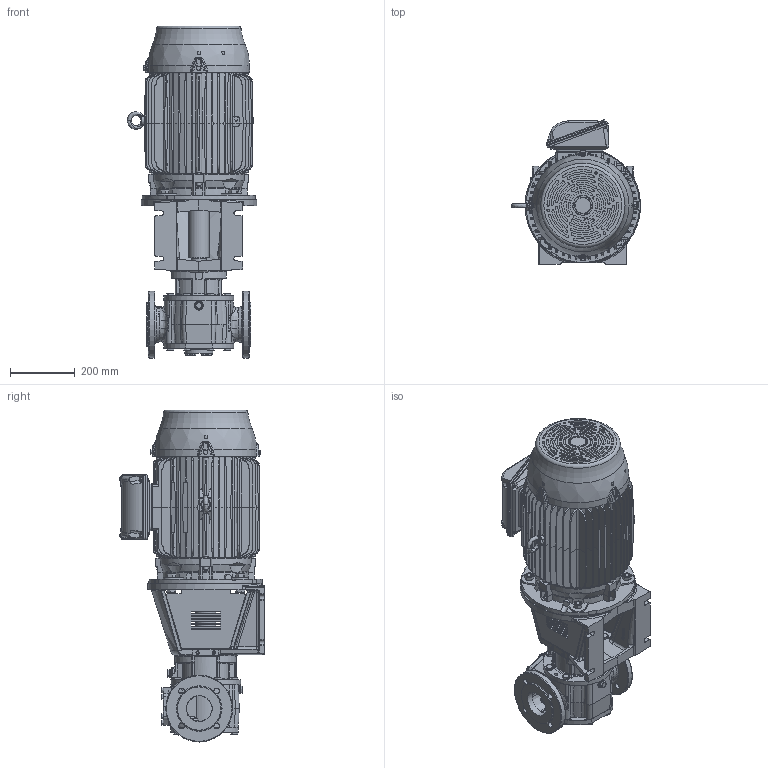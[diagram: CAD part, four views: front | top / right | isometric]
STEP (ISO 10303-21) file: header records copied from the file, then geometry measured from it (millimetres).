
FILE_DESCRIPTION(/* description */ (''),/* implementation_level */ '2;1');
FILE_NAME(/* name */ 'C:\V\JPP\Designs\GEAR PUMPS\PRODUCT ENGINEERING\EUROPE\TG BLOC\TG BLOC_58-80_R3_O_NRV-_160L-STEP.stp',/* time_stamp */ '2021-03-19T11:21:45+01:00',/* author */ ('A77THR'),/* organization */ (''),/* preprocessor_version */ 'ST-DEVELOPER v18.1',/* originating_system */ 'Autodesk Inventor 2020',/* authorisation */ '');
FILE_SCHEMA (('AUTOMOTIVE_DESIGN { 1 0 10303 214 3 1 1 }'));
Length unit declared in the file: millimetre
Products named in the file (1): TG BLOC_58-80_R3_O_NRV-_160L
Bounding box: 397.99 x 444.6 x 1022.4 mm (x, y, z)
Volume: 51847165.5 mm3; surface area: 2586670.8 mm2
Topology: 1 solids, 1 shells, 4643 faces, 12167 edges, 7712 vertices
Faces by surface type: plane 1963, cylinder 1040, bspline 879, cone 615, torus 107, sphere 39
Full cylindrical faces by diameter (mm): 4 x1, 4.5 x8, 4.917 x8, 5 x4, 6.647 x1, 7 x4, 7.323 x14, 7.5 x3, 8 x23, 9 x14, 9.4 x1, 10 x8, 10.106 x7, 10.2 x2, 11.053 x4, 11.4 x14, 11.445 x2, 11.6 x7, 12 x4, 12.5 x3, 13 x5, 13.157 x2, 13.2 x2, 14 x8, 15.011 x2, 16 x1, 17.2 x20, 18 x10, 19 x2, 20.955 x1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
Entity records: 184097 total; most frequent: CARTESIAN_POINT 71805, ORIENTED_EDGE 24162, DIRECTION 20764, EDGE_CURVE 12081, AXIS2_PLACEMENT_3D 7960, VERTEX_POINT 7704, EDGE_LOOP 5047, LINE 4844
